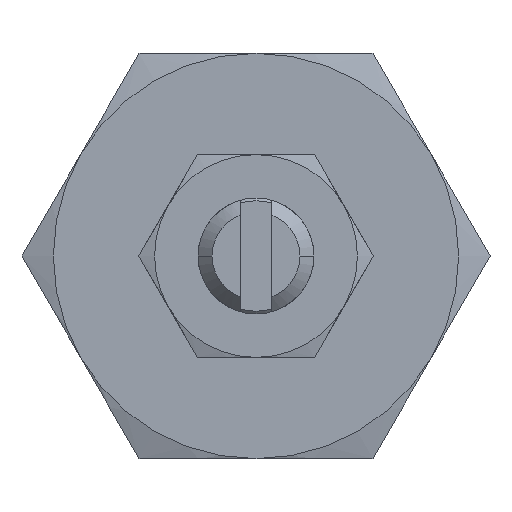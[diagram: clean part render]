
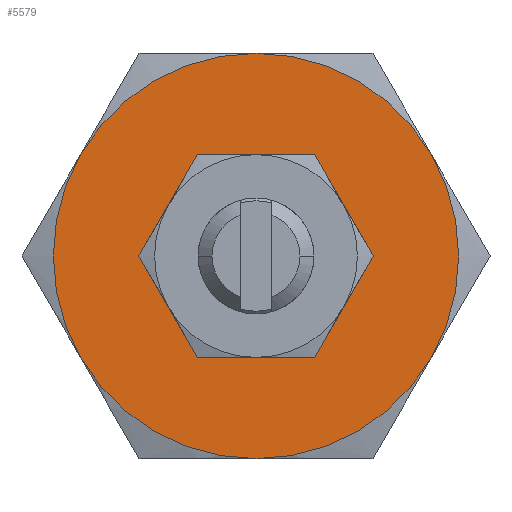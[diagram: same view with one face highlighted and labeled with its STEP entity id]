
A CAD part, left-side view. The second image highlights one B-rep face of the part: STEP entity #5579.
In plain terms, the highlighted planar face has unit normal (-1, 0, 0).
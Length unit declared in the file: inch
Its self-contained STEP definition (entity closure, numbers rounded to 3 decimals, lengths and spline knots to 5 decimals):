
#3726=CARTESIAN_POINT('',(-1.398,-0.12644,-0.219));
#3727=VERTEX_POINT('',#3726);
#3734=CARTESIAN_POINT('',(-1.398,-0.25288,0.));
#3735=VERTEX_POINT('',#3734);
#3736=CARTESIAN_POINT('',(-1.398,-0.12644,-0.219));
#3737=DIRECTION('',(0.0,-0.5,0.866));
#3738=VECTOR('',#3737,0.25288);
#3739=LINE('',#3736,#3738);
#3740=EDGE_CURVE('',#3727,#3735,#3739,.T.);
#3758=CARTESIAN_POINT('',(-1.398,0.12644,-0.219));
#3759=VERTEX_POINT('',#3758);
#3760=CARTESIAN_POINT('',(-1.398,0.12644,-0.219));
#3761=DIRECTION('',(0.0,-1.0,0.0));
#3762=VECTOR('',#3761,0.25288);
#3763=LINE('',#3760,#3762);
#3764=EDGE_CURVE('',#3759,#3727,#3763,.T.);
#3783=CARTESIAN_POINT('',(-1.398,0.25288,0.));
#3784=VERTEX_POINT('',#3783);
#3785=CARTESIAN_POINT('',(-1.398,0.25288,0.));
#3786=DIRECTION('',(0.0,-0.5,-0.866));
#3787=VECTOR('',#3786,0.25288);
#3788=LINE('',#3785,#3787);
#3789=EDGE_CURVE('',#3784,#3759,#3788,.T.);
#3808=CARTESIAN_POINT('',(-1.398,0.12644,0.219));
#3809=VERTEX_POINT('',#3808);
#3810=CARTESIAN_POINT('',(-1.398,0.12644,0.219));
#3811=DIRECTION('',(0.0,0.5,-0.866));
#3812=VECTOR('',#3811,0.25288);
#3813=LINE('',#3810,#3812);
#3814=EDGE_CURVE('',#3809,#3784,#3813,.T.);
#3914=CARTESIAN_POINT('',(-1.398,-0.12644,0.219));
#3915=VERTEX_POINT('',#3914);
#3922=CARTESIAN_POINT('',(-1.398,-0.12644,0.219));
#3923=DIRECTION('',(0.0,1.0,0.0));
#3924=VECTOR('',#3923,0.25288);
#3925=LINE('',#3922,#3924);
#3926=EDGE_CURVE('',#3915,#3809,#3925,.T.);
#3940=CARTESIAN_POINT('',(-1.398,-0.25288,0.));
#3941=DIRECTION('',(0.0,0.5,0.866));
#3942=VECTOR('',#3941,0.25288);
#3943=LINE('',#3940,#3942);
#3944=EDGE_CURVE('',#3735,#3915,#3943,.T.);
#3980=CARTESIAN_POINT('',(-1.398,0.37889,0.21875));
#3981=VERTEX_POINT('',#3980);
#4053=CARTESIAN_POINT('',(-1.398,0.0,0.4375));
#4054=VERTEX_POINT('',#4053);
#4135=CARTESIAN_POINT('',(-1.398,0.37889,-0.21875));
#4136=VERTEX_POINT('',#4135);
#4221=CARTESIAN_POINT('',(-1.398,0.0,-0.4375));
#4222=VERTEX_POINT('',#4221);
#4294=CARTESIAN_POINT('',(-1.398,-0.37889,-0.21875));
#4295=VERTEX_POINT('',#4294);
#4358=CARTESIAN_POINT('',(-1.398,-0.37889,0.21875));
#4359=VERTEX_POINT('',#4358);
#4396=CARTESIAN_POINT('',(-1.398,0.0,0.));
#4397=DIRECTION('',(-1.0,0.0,0.0));
#4398=DIRECTION('',(0.0,0.0,1.0));
#4399=AXIS2_PLACEMENT_3D('',#4396,#4397,#4398);
#4400=CIRCLE('',#4399,0.4375);
#4401=EDGE_CURVE('',#4136,#4222,#4400,.T.);
#4413=CARTESIAN_POINT('',(-1.398,0.0,0.));
#4414=DIRECTION('',(-1.0,0.0,0.0));
#4415=DIRECTION('',(0.0,0.0,1.0));
#4416=AXIS2_PLACEMENT_3D('',#4413,#4414,#4415);
#4417=CIRCLE('',#4416,0.4375);
#4418=EDGE_CURVE('',#4222,#4295,#4417,.T.);
#4430=CARTESIAN_POINT('',(-1.398,0.0,0.));
#4431=DIRECTION('',(-1.0,0.0,0.0));
#4432=DIRECTION('',(0.0,0.0,1.0));
#4433=AXIS2_PLACEMENT_3D('',#4430,#4431,#4432);
#4434=CIRCLE('',#4433,0.4375);
#4435=EDGE_CURVE('',#4295,#4359,#4434,.T.);
#4448=CARTESIAN_POINT('',(-1.398,0.0,0.));
#4449=DIRECTION('',(-1.0,0.0,0.0));
#4450=DIRECTION('',(0.0,0.0,1.0));
#4451=AXIS2_PLACEMENT_3D('',#4448,#4449,#4450);
#4452=CIRCLE('',#4451,0.4375);
#4453=EDGE_CURVE('',#4359,#4054,#4452,.T.);
#4465=CARTESIAN_POINT('',(-1.398,0.0,0.));
#4466=DIRECTION('',(-1.0,0.0,0.0));
#4467=DIRECTION('',(0.0,0.0,1.0));
#4468=AXIS2_PLACEMENT_3D('',#4465,#4466,#4467);
#4469=CIRCLE('',#4468,0.4375);
#4470=EDGE_CURVE('',#4054,#3981,#4469,.T.);
#4482=CARTESIAN_POINT('',(-1.398,0.0,0.));
#4483=DIRECTION('',(-1.0,0.0,0.0));
#4484=DIRECTION('',(0.0,0.0,1.0));
#4485=AXIS2_PLACEMENT_3D('',#4482,#4483,#4484);
#4486=CIRCLE('',#4485,0.4375);
#4487=EDGE_CURVE('',#3981,#4136,#4486,.T.);
#5558=CARTESIAN_POINT('',(-1.398,0.,0.));
#5559=DIRECTION('',(-1.0,0.0,0.0));
#5560=DIRECTION('',(0.0,0.0,1.0));
#5561=AXIS2_PLACEMENT_3D('',#5558,#5559,#5560);
#5562=PLANE('',#5561);
#5563=ORIENTED_EDGE('',*,*,#4401,.T.);
#5564=ORIENTED_EDGE('',*,*,#4418,.T.);
#5565=ORIENTED_EDGE('',*,*,#4435,.T.);
#5566=ORIENTED_EDGE('',*,*,#4453,.T.);
#5567=ORIENTED_EDGE('',*,*,#4470,.T.);
#5568=ORIENTED_EDGE('',*,*,#4487,.T.);
#5569=EDGE_LOOP('',(#5563,#5564,#5565,#5566,#5567,#5568));
#5570=FACE_OUTER_BOUND('',#5569,.T.);
#5571=ORIENTED_EDGE('',*,*,#3944,.F.);
#5572=ORIENTED_EDGE('',*,*,#3740,.F.);
#5573=ORIENTED_EDGE('',*,*,#3764,.F.);
#5574=ORIENTED_EDGE('',*,*,#3789,.F.);
#5575=ORIENTED_EDGE('',*,*,#3814,.F.);
#5576=ORIENTED_EDGE('',*,*,#3926,.F.);
#5577=EDGE_LOOP('',(#5571,#5572,#5573,#5574,#5575,#5576));
#5578=FACE_BOUND('',#5577,.T.);
#5579=ADVANCED_FACE('',(#5570,#5578),#5562,.T.);
